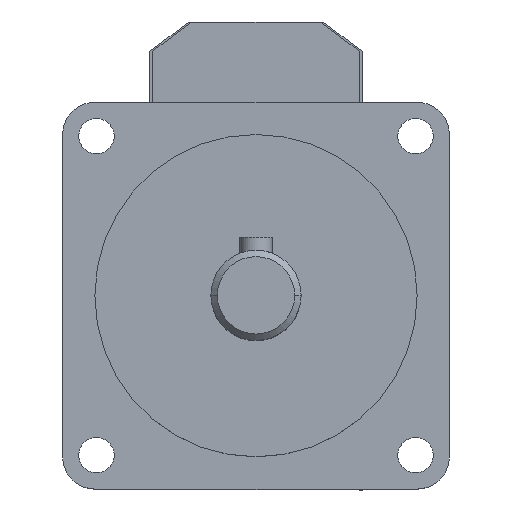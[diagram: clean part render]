
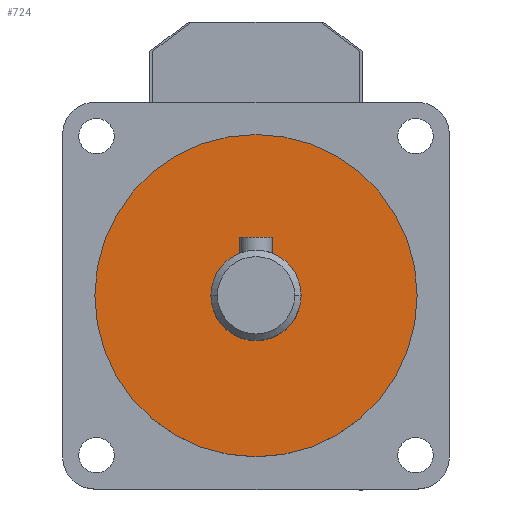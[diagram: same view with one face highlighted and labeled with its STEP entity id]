
A CAD part, top view. The second image highlights one B-rep face of the part: STEP entity #724.
In plain terms, the highlighted planar face has unit normal (0, 0, 1).
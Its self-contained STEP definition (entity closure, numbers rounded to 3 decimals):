
#35 = CARTESIAN_POINT ( 'NONE',  ( 0., 0., 87. ) ) ;
#216 = FACE_OUTER_BOUND ( 'NONE', #1376, .T. ) ;
#248 = ORIENTED_EDGE ( 'NONE', *, *, #1132, .F. ) ;
#307 = ORIENTED_EDGE ( 'NONE', *, *, #2290, .F. ) ;
#343 = AXIS2_PLACEMENT_3D ( 'NONE', #35, #1480, #2044 ) ;
#373 = VERTEX_POINT ( 'NONE', #1645 ) ;
#417 = ORIENTED_EDGE ( 'NONE', *, *, #2084, .T. ) ;
#429 = DIRECTION ( 'NONE',  ( 1., 0., 0. ) ) ;
#519 = CARTESIAN_POINT ( 'NONE',  ( 0., 0., 87. ) ) ;
#597 = CARTESIAN_POINT ( 'NONE',  ( -25., 0., 87. ) ) ;
#630 = CIRCLE ( 'NONE', #2109, 25. ) ;
#651 = CARTESIAN_POINT ( 'NONE',  ( 0., 0., 87. ) ) ;
#661 = VERTEX_POINT ( 'NONE', #1267 ) ;
#724 = ADVANCED_FACE ( 'NONE', ( #2023, #216 ), #2052, .T. ) ;
#781 = CIRCLE ( 'NONE', #1751, 25. ) ;
#798 = DIRECTION ( 'NONE',  ( 0., 0., 1. ) ) ;
#934 = EDGE_CURVE ( 'NONE', #1478, #661, #630, .T. ) ;
#1132 = EDGE_CURVE ( 'NONE', #1510, #373, #1438, .T. ) ;
#1181 = DIRECTION ( 'NONE',  ( 1., 0., 0. ) ) ;
#1191 = DIRECTION ( 'NONE',  ( 1., 0., 0. ) ) ;
#1236 = AXIS2_PLACEMENT_3D ( 'NONE', #519, #2017, #2201 ) ;
#1267 = CARTESIAN_POINT ( 'NONE',  ( 25., 0., 87. ) ) ;
#1288 = EDGE_LOOP ( 'NONE', ( #307, #248 ) ) ;
#1376 = EDGE_LOOP ( 'NONE', ( #1519, #417 ) ) ;
#1415 = AXIS2_PLACEMENT_3D ( 'NONE', #651, #2296, #1181 ) ;
#1424 = CIRCLE ( 'NONE', #1415, 7. ) ;
#1438 = CIRCLE ( 'NONE', #1236, 7. ) ;
#1478 = VERTEX_POINT ( 'NONE', #597 ) ;
#1480 = DIRECTION ( 'NONE',  ( 0., 0., 1. ) ) ;
#1510 = VERTEX_POINT ( 'NONE', #2085 ) ;
#1519 = ORIENTED_EDGE ( 'NONE', *, *, #934, .T. ) ;
#1524 = CARTESIAN_POINT ( 'NONE',  ( 0., 0., 87. ) ) ;
#1645 = CARTESIAN_POINT ( 'NONE',  ( -7., 0., 87. ) ) ;
#1751 = AXIS2_PLACEMENT_3D ( 'NONE', #1524, #798, #429 ) ;
#2017 = DIRECTION ( 'NONE',  ( 0., 0., 1. ) ) ;
#2023 = FACE_BOUND ( 'NONE', #1288, .T. ) ;
#2044 = DIRECTION ( 'NONE',  ( 1., 0., 0. ) ) ;
#2052 = PLANE ( 'NONE',  #343 ) ;
#2084 = EDGE_CURVE ( 'NONE', #661, #1478, #781, .T. ) ;
#2085 = CARTESIAN_POINT ( 'NONE',  ( 7., 0., 87. ) ) ;
#2109 = AXIS2_PLACEMENT_3D ( 'NONE', #2134, #2314, #1191 ) ;
#2134 = CARTESIAN_POINT ( 'NONE',  ( 0., 0., 87. ) ) ;
#2201 = DIRECTION ( 'NONE',  ( 1., 0., 0. ) ) ;
#2290 = EDGE_CURVE ( 'NONE', #373, #1510, #1424, .T. ) ;
#2296 = DIRECTION ( 'NONE',  ( 0., 0., 1. ) ) ;
#2314 = DIRECTION ( 'NONE',  ( 0., 0., 1. ) ) ;
